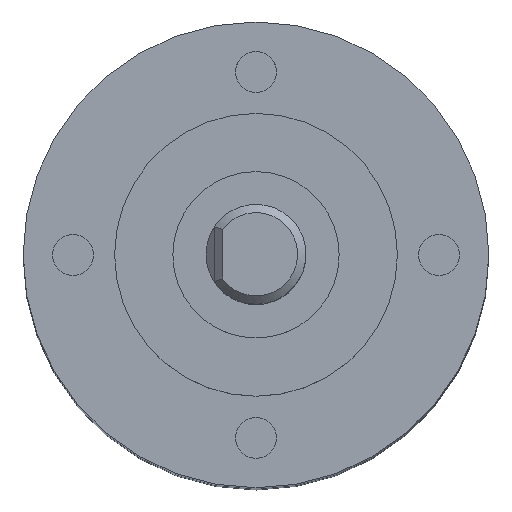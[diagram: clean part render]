
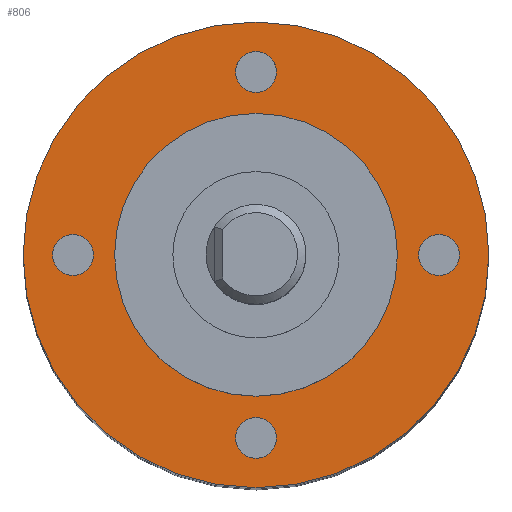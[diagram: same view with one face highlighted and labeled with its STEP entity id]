
A CAD part, top view. The second image highlights one B-rep face of the part: STEP entity #806.
In plain terms, the highlighted planar face has unit normal (0, 0, 1).
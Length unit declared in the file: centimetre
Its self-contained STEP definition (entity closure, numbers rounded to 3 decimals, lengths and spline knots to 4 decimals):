
#259=VERTEX_POINT('',#2510);
#306=VERTEX_POINT('',#2652);
#308=VERTEX_POINT('',#2658);
#310=VERTEX_POINT('',#2664);
#312=VERTEX_POINT('',#2670);
#323=VERTEX_POINT('',#2712);
#329=EDGE_CURVE('',#259,#259,#1125,.T.);
#396=EDGE_CURVE('',#306,#306,#1140,.T.);
#398=EDGE_CURVE('',#308,#308,#1142,.T.);
#400=EDGE_CURVE('',#310,#310,#1144,.T.);
#402=EDGE_CURVE('',#312,#312,#1146,.T.);
#417=EDGE_CURVE('',#323,#323,#1153,.T.);
#598=ORIENTED_EDGE('',*,*,#396,.T.);
#599=ORIENTED_EDGE('',*,*,#398,.T.);
#600=ORIENTED_EDGE('',*,*,#400,.T.);
#601=ORIENTED_EDGE('',*,*,#402,.T.);
#602=ORIENTED_EDGE('',*,*,#417,.T.);
#603=ORIENTED_EDGE('',*,*,#329,.F.);
#674=EDGE_LOOP('',(#598));
#675=EDGE_LOOP('',(#599));
#676=EDGE_LOOP('',(#600));
#677=EDGE_LOOP('',(#601));
#678=EDGE_LOOP('',(#602));
#679=EDGE_LOOP('',(#603));
#750=FACE_BOUND('',#674,.T.);
#751=FACE_BOUND('',#675,.T.);
#752=FACE_BOUND('',#676,.T.);
#753=FACE_BOUND('',#677,.T.);
#754=FACE_BOUND('',#678,.T.);
#755=FACE_BOUND('',#679,.T.);
#806=ADVANCED_FACE('',(#750,#751,#752,#753,#754,#755),#1963,.T.);
#1125=CIRCLE('',#1739,1.4);
#1140=CIRCLE('',#1782,0.123);
#1142=CIRCLE('',#1786,0.123);
#1144=CIRCLE('',#1790,0.123);
#1146=CIRCLE('',#1794,0.123);
#1153=CIRCLE('',#1812,0.85);
#1739=AXIS2_PLACEMENT_3D('',#2509,#2154,#2155);
#1782=AXIS2_PLACEMENT_3D('',#2651,#2271,#2272);
#1786=AXIS2_PLACEMENT_3D('',#2657,#2278,#2279);
#1790=AXIS2_PLACEMENT_3D('',#2663,#2285,#2286);
#1794=AXIS2_PLACEMENT_3D('',#2669,#2292,#2293);
#1812=AXIS2_PLACEMENT_3D('',#2711,#2327,#2328);
#1814=AXIS2_PLACEMENT_3D('',#2714,#2330,$);
#1963=PLANE('',#1814);
#2154=DIRECTION('',(0.,0.,-1.));
#2155=DIRECTION('',(1.4,0.,0.));
#2271=DIRECTION('',(0.,0.,-1.));
#2272=DIRECTION('',(0.,0.123,0.));
#2278=DIRECTION('',(0.,0.,-1.));
#2279=DIRECTION('',(0.,0.123,0.));
#2285=DIRECTION('',(0.,0.,-1.));
#2286=DIRECTION('',(0.,0.123,0.));
#2292=DIRECTION('',(0.,0.,-1.));
#2293=DIRECTION('',(0.,0.123,0.));
#2327=DIRECTION('',(0.,0.,-1.));
#2328=DIRECTION('',(0.85,0.,0.));
#2330=DIRECTION('',(0.,0.,1.));
#2509=CARTESIAN_POINT('',(0.,0.,7.75));
#2510=CARTESIAN_POINT('',(1.4,0.,7.75));
#2651=CARTESIAN_POINT('',(-1.1,0.,7.75));
#2652=CARTESIAN_POINT('',(-1.1,0.123,7.75));
#2657=CARTESIAN_POINT('',(0.,-1.1,7.75));
#2658=CARTESIAN_POINT('',(0.,-0.9771,7.75));
#2663=CARTESIAN_POINT('',(1.1,0.,7.75));
#2664=CARTESIAN_POINT('',(1.1,0.123,7.75));
#2669=CARTESIAN_POINT('',(0.,1.1,7.75));
#2670=CARTESIAN_POINT('',(0.,1.223,7.75));
#2711=CARTESIAN_POINT('',(0.,0.,7.75));
#2712=CARTESIAN_POINT('',(0.85,0.,7.75));
#2714=CARTESIAN_POINT('',(0.,0.,7.75));
